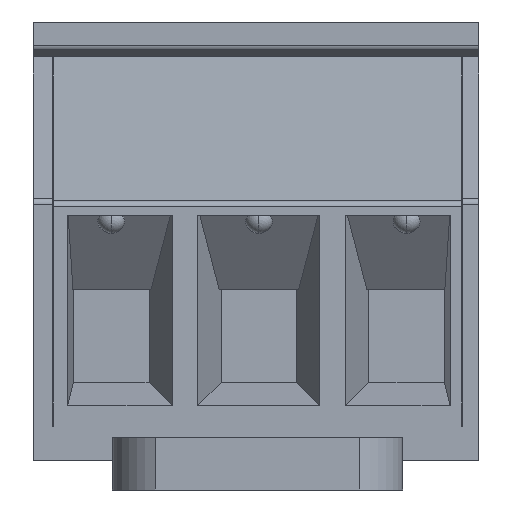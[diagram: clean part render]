
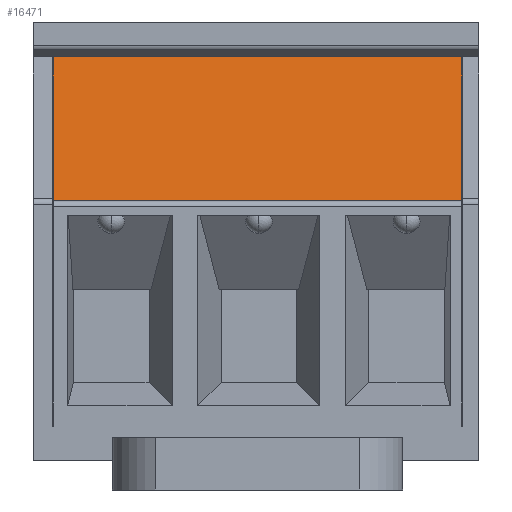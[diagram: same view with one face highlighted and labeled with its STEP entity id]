
A CAD part, front view. The second image highlights one B-rep face of the part: STEP entity #16471.
In plain terms, the highlighted planar face has unit normal (0, -0.986, 0.164).
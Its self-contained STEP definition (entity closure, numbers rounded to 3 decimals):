
#82=DIRECTION('',(-1.,0.,0.));
#83=VECTOR('',#82,14.04);
#84=CARTESIAN_POINT('',(29.19,1.025,-1.2));
#85=LINE('',#84,#83);
#345=DIRECTION('',(0.,-0.164,-0.986));
#346=VECTOR('',#345,5.018);
#347=CARTESIAN_POINT('',(15.15,1.025,-1.2));
#348=LINE('',#347,#346);
#599=DIRECTION('',(0.,0.164,0.986));
#600=VECTOR('',#599,5.018);
#601=CARTESIAN_POINT('',(29.19,0.2,-6.15));
#602=LINE('',#601,#600);
#5957=DIRECTION('',(1.,0.,0.));
#5958=VECTOR('',#5957,14.04);
#5959=CARTESIAN_POINT('',(15.15,0.2,-6.15));
#5960=LINE('',#5959,#5958);
#7175=CARTESIAN_POINT('',(15.15,1.025,-1.2));
#7177=VERTEX_POINT('',#7175);
#7192=CARTESIAN_POINT('',(29.19,1.025,-1.2));
#7193=VERTEX_POINT('',#7192);
#7230=CARTESIAN_POINT('',(15.15,0.2,-6.15));
#7231=VERTEX_POINT('',#7230);
#7276=CARTESIAN_POINT('',(29.19,0.2,-6.15));
#7277=VERTEX_POINT('',#7276);
#16460=CARTESIAN_POINT('',(4.99,1.,-1.35));
#16461=DIRECTION('',(0.,-0.986,0.164));
#16462=DIRECTION('',(0.,-0.164,-0.986));
#16463=AXIS2_PLACEMENT_3D('',#16460,#16461,#16462);
#16464=PLANE('',#16463);
#16465=ORIENTED_EDGE('',*,*,#16454,.F.);
#16466=ORIENTED_EDGE('',*,*,#9529,.F.);
#16467=ORIENTED_EDGE('',*,*,#9048,.F.);
#16468=ORIENTED_EDGE('',*,*,#9726,.F.);
#16469=EDGE_LOOP('',(#16465,#16466,#16467,#16468));
#16470=FACE_OUTER_BOUND('',#16469,.F.);
#16471=ADVANCED_FACE('',(#16470),#16464,.T.);
#9048=EDGE_CURVE('',#7193,#7177,#85,.T.);
#9529=EDGE_CURVE('',#7177,#7231,#348,.T.);
#9726=EDGE_CURVE('',#7277,#7193,#602,.T.);
#16454=EDGE_CURVE('',#7231,#7277,#5960,.T.);
